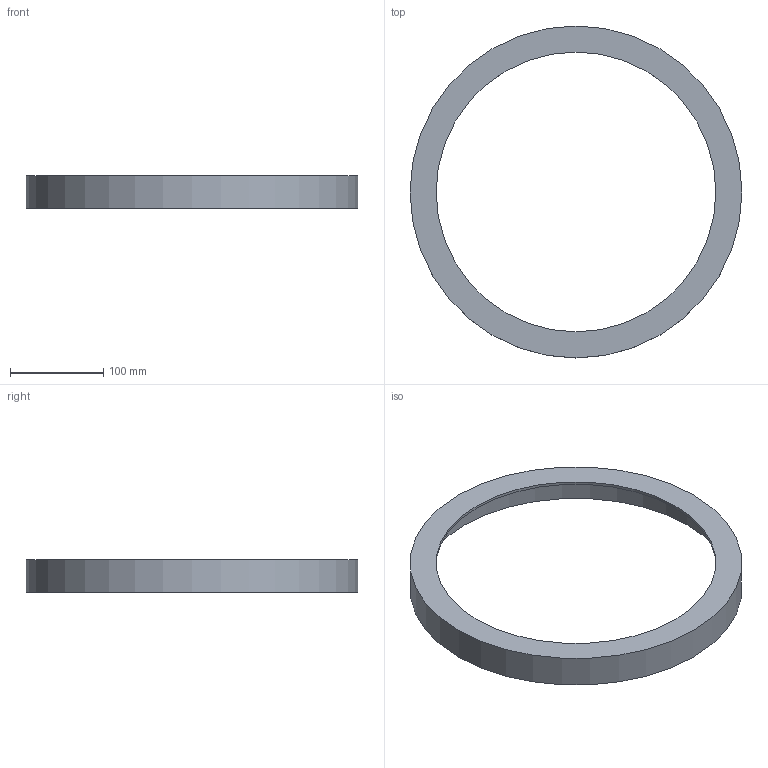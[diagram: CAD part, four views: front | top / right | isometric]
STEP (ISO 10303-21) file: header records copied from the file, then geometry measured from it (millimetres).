
FILE_DESCRIPTION(('Open CASCADE Model'),'2;1');
FILE_NAME('Open CASCADE Shape Model','2026-09-16T16:54:27',('Author'),( 'Open CASCADE'),'Open CASCADE STEP processor 7.8','Open CASCADE 7.8' ,'Unknown');
FILE_SCHEMA(('AUTOMOTIVE_DESIGN { 1 0 10303 214 1 1 1 1 }'));
Length unit declared in the file: millimetre
Products named in the file (1): Open CASCADE STEP translator 7.8 12
Bounding box: 356 x 356 x 35 mm (x, y, z)
Volume: 400515.4 mm3; surface area: 133655.9 mm2
Topology: 1 solids, 1 shells, 6 faces, 9 edges, 6 vertices
Faces by surface type: cylinder 3, plane 3
Full cylindrical faces by diameter (mm): 300 x1, 338 x1, 356 x1
Entity records: 273 total; most frequent: CARTESIAN_POINT 46, DIRECTION 46, ORIENTED_EDGE 18, PCURVE 18, DEFINITIONAL_REPRESENTATION 18, LINE 15, VECTOR 15, AXIS2_PLACEMENT_3D 13
